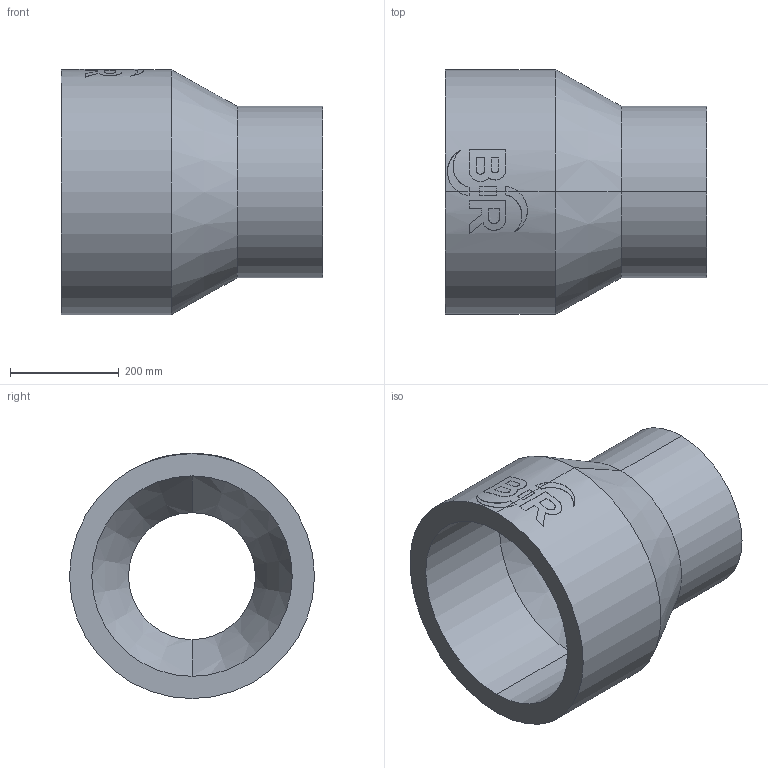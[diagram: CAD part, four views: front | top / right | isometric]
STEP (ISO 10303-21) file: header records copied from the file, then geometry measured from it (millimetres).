
FILE_DESCRIPTION (( 'STEP AP214' ), '1' );
FILE_NAME ('2323262315.STEP', '2018-07-20T10:54:36', ( '' ), ( '' ), 'SwSTEP 2.0', 'SolidWorks 2017', '' );
FILE_SCHEMA (( 'AUTOMOTIVE_DESIGN' ));
Length unit declared in the file: millimetre
Products named in the file (1): 2323262315
Bounding box: 480 x 450 x 450.46 mm (x, y, z)
Volume: 22140728.3 mm3; surface area: 1170890 mm2
Topology: 1 solids, 1 shells, 63 faces, 160 edges, 104 vertices
Faces by surface type: cylinder 31, plane 28, cone 4
Entity records: 3488 total; most frequent: CARTESIAN_POINT 1279, ORIENTED_EDGE 320, DIRECTION 296, EDGE_CURVE 160, AXIS2_PLACEMENT_3D 112, VERTEX_POINT 104, LINE 72, VECTOR 72
